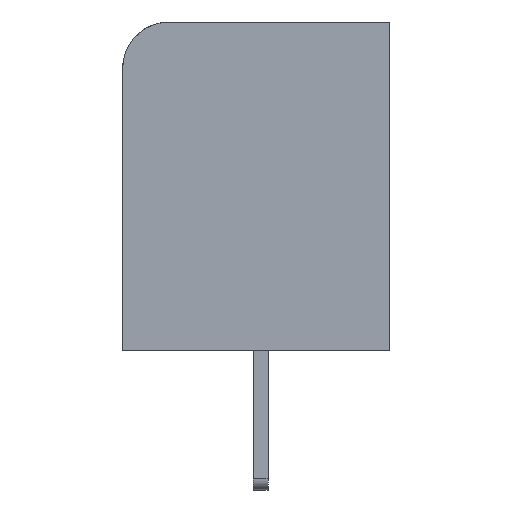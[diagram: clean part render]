
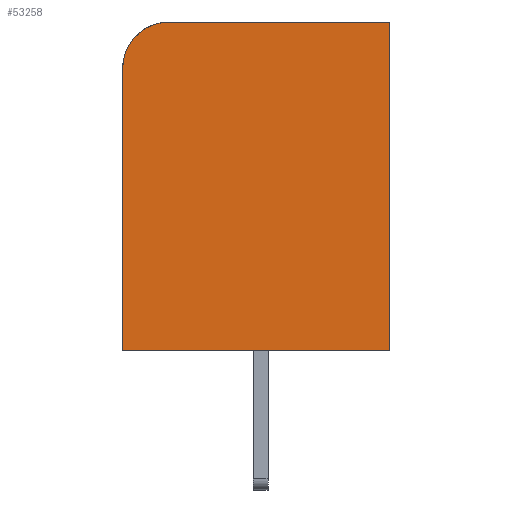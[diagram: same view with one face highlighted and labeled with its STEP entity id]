
A CAD part, left-side view. The second image highlights one B-rep face of the part: STEP entity #53258.
In plain terms, the highlighted planar face has unit normal (-1, 0, 0).
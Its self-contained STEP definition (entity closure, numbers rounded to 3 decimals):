
#122=DIRECTION('',(0.,0.,1.));
#123=VECTOR('',#122,15.1);
#124=CARTESIAN_POINT('',(0.,14.3,-17.6));
#125=LINE('',#124,#123);
#23411=CARTESIAN_POINT('',(0.,11.8,-2.5));
#23412=DIRECTION('',(-1.,0.,0.));
#23413=DIRECTION('',(0.,0.,1.));
#23414=AXIS2_PLACEMENT_3D('',#23411,#23412,#23413);
#23416=DIRECTION('',(0.,1.,0.));
#23417=VECTOR('',#23416,11.8);
#23418=CARTESIAN_POINT('',(0.,0.,0.));
#23419=LINE('',#23418,#23417);
#23420=DIRECTION('',(0.,0.,1.));
#23421=VECTOR('',#23420,17.6);
#23422=CARTESIAN_POINT('',(0.,0.,-17.6));
#23423=LINE('',#23422,#23421);
#23424=DIRECTION('',(0.,-1.,0.));
#23425=VECTOR('',#23424,14.3);
#23426=CARTESIAN_POINT('',(0.,14.3,-17.6));
#23427=LINE('',#23426,#23425);
#23516=CARTESIAN_POINT('',(0.,0.,-17.6));
#23517=VERTEX_POINT('',#23516);
#23518=CARTESIAN_POINT('',(0.,0.,0.));
#23519=VERTEX_POINT('',#23518);
#23658=CARTESIAN_POINT('',(0.,14.3,-17.6));
#23659=VERTEX_POINT('',#23658);
#23660=CARTESIAN_POINT('',(0.,11.8,0.));
#23661=VERTEX_POINT('',#23660);
#23666=CARTESIAN_POINT('',(0.,14.3,-2.5));
#23667=VERTEX_POINT('',#23666);
#53246=CARTESIAN_POINT('',(0.,0.,-17.6));
#53247=DIRECTION('',(-1.,0.,0.));
#53248=DIRECTION('',(0.,0.,1.));
#53249=AXIS2_PLACEMENT_3D('',#53246,#53247,#53248);
#53250=PLANE('',#53249);
#53251=ORIENTED_EDGE('',*,*,#26591,.T.);
#53252=ORIENTED_EDGE('',*,*,#53241,.F.);
#53253=ORIENTED_EDGE('',*,*,#26521,.F.);
#53254=ORIENTED_EDGE('',*,*,#26474,.F.);
#53255=ORIENTED_EDGE('',*,*,#26614,.F.);
#53256=EDGE_LOOP('',(#53251,#53252,#53253,#53254,#53255));
#53257=FACE_OUTER_BOUND('',#53256,.F.);
#53258=ADVANCED_FACE('',(#53257),#53250,.T.);
#23415=CIRCLE('',#23414,2.5);
#26474=EDGE_CURVE('',#23517,#23519,#23423,.T.);
#26521=EDGE_CURVE('',#23519,#23661,#23419,.T.);
#26591=EDGE_CURVE('',#23659,#23667,#125,.T.);
#26614=EDGE_CURVE('',#23659,#23517,#23427,.T.);
#53241=EDGE_CURVE('',#23661,#23667,#23415,.T.);
